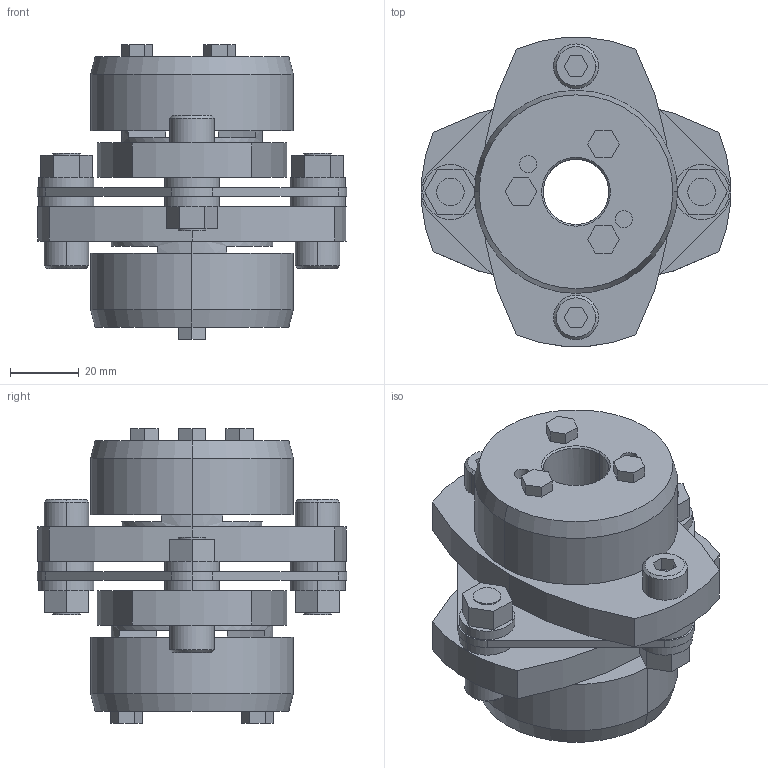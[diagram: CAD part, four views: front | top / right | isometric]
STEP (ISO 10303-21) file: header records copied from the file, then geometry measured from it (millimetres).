
FILE_DESCRIPTION((''),'2;1');
FILE_NAME('LCS-90T7-19×24.stp','2015-11-01T20:11:54',(''),(''),'AutoCAD STEP 2000i','AutoCAD 2000i',', , ');
FILE_SCHEMA(('CONFIG_CONTROL_DESIGN'));
Length unit declared in the file: millimetre
Products named in the file (8): LCS-90T7-19×25; 忣兜1; LC90T7-T025; LC90T7-T019-1; LC90T7-T019; LC90-B019-1; LC90-B019; LCS90-ITA
Assembly tree (7 placements, depth 2):
  LCS-90T7-19×25
    忣兜1
    LC90T7-T025
    LC90T7-T019-1
    LC90T7-T019
    LC90-B019-1
    LC90-B019
    LCS90-ITA
Bounding box: 90 x 89.94 x 85.5 mm (x, y, z)
Volume: 203561.9 mm3; surface area: 52190.5 mm2
Topology: 1 solids, 1 shells, 225 faces, 550 edges, 360 vertices
Faces by surface type: plane 125, cylinder 80, cone 20
Entity records: 6869 total; most frequent: DIRECTION 1212, CARTESIAN_POINT 1143, ORIENTED_EDGE 1100, EDGE_CURVE 550, AXIS2_PLACEMENT_3D 429, VERTEX_POINT 360, VECTOR 354, LINE 354
